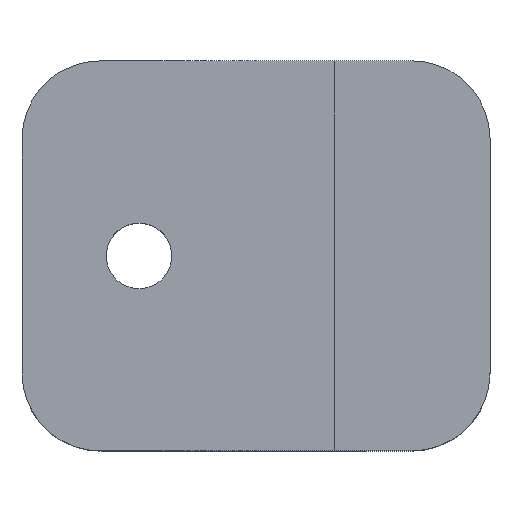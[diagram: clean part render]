
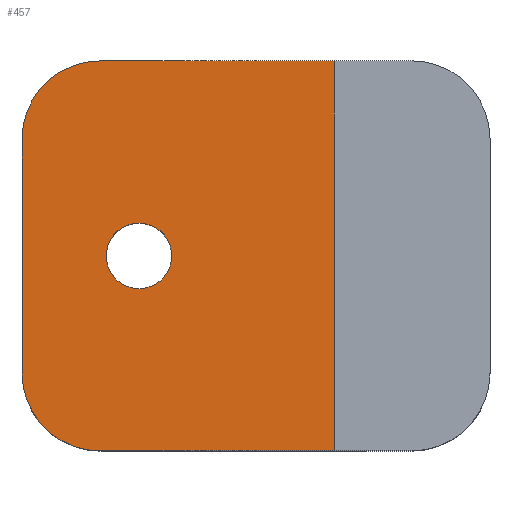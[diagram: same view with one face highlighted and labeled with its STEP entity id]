
A CAD part, top view. The second image highlights one B-rep face of the part: STEP entity #457.
In plain terms, the highlighted planar face has unit normal (0, 0, 1).
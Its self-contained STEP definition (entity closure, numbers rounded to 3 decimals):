
#3 = CARTESIAN_POINT ( 'NONE',  ( -10., -12.5, 3. ) ) ;
#7 = CARTESIAN_POINT ( 'NONE',  ( -15., -7.5, 3. ) ) ;
#13 = VERTEX_POINT ( 'NONE', #466 ) ;
#14 = CARTESIAN_POINT ( 'NONE',  ( -15., -12.5, 3. ) ) ;
#15 = DIRECTION ( 'NONE',  ( 0., 0., 1. ) ) ;
#16 = VERTEX_POINT ( 'NONE', #7 ) ;
#19 = LINE ( 'NONE', #14, #465 ) ;
#28 = CARTESIAN_POINT ( 'NONE',  ( 5., -12.5, 3. ) ) ;
#36 = DIRECTION ( 'NONE',  ( -1., 0., 0. ) ) ;
#38 = EDGE_LOOP ( 'NONE', ( #297 ) ) ;
#40 = VECTOR ( 'NONE', #55, 1000. ) ;
#45 = DIRECTION ( 'NONE',  ( 0., 0., 1. ) ) ;
#55 = DIRECTION ( 'NONE',  ( -1., 0., 0. ) ) ;
#60 = ORIENTED_EDGE ( 'NONE', *, *, #276, .T. ) ;
#64 = AXIS2_PLACEMENT_3D ( 'NONE', #231, #45, #190 ) ;
#67 = LINE ( 'NONE', #361, #293 ) ;
#68 = CARTESIAN_POINT ( 'NONE',  ( -10., -7.5, 3. ) ) ;
#69 = AXIS2_PLACEMENT_3D ( 'NONE', #68, #492, #36 ) ;
#73 = VERTEX_POINT ( 'NONE', #160 ) ;
#76 = EDGE_CURVE ( 'NONE', #279, #279, #366, .T. ) ;
#79 = ORIENTED_EDGE ( 'NONE', *, *, #118, .T. ) ;
#97 = CARTESIAN_POINT ( 'NONE',  ( -5.4, 0., 3. ) ) ;
#118 = EDGE_CURVE ( 'NONE', #13, #73, #214, .T. ) ;
#122 = ORIENTED_EDGE ( 'NONE', *, *, #162, .T. ) ;
#127 = CARTESIAN_POINT ( 'NONE',  ( 5., 12.5, 3. ) ) ;
#132 = ORIENTED_EDGE ( 'NONE', *, *, #445, .T. ) ;
#137 = CARTESIAN_POINT ( 'NONE',  ( 5., -12.5, 3. ) ) ;
#160 = CARTESIAN_POINT ( 'NONE',  ( -15., 7.5, 3. ) ) ;
#162 = EDGE_CURVE ( 'NONE', #185, #477, #450, .T. ) ;
#163 = PLANE ( 'NONE',  #301 ) ;
#185 = VERTEX_POINT ( 'NONE', #28 ) ;
#190 = DIRECTION ( 'NONE',  ( 1., 0., 0. ) ) ;
#197 = CARTESIAN_POINT ( 'NONE',  ( -10., 7.5, 3. ) ) ;
#204 = DIRECTION ( 'NONE',  ( -1., 0., 0. ) ) ;
#205 = EDGE_LOOP ( 'NONE', ( #132, #79, #60, #398, #463, #122 ) ) ;
#210 = DIRECTION ( 'NONE',  ( 0., 1., 0. ) ) ;
#211 = DIRECTION ( 'NONE',  ( 0., -1., 0. ) ) ;
#214 = CIRCLE ( 'NONE', #405, 5. ) ;
#231 = CARTESIAN_POINT ( 'NONE',  ( -7.5, 0., 3. ) ) ;
#242 = CIRCLE ( 'NONE', #69, 5. ) ;
#273 = FACE_BOUND ( 'NONE', #38, .T. ) ;
#276 = EDGE_CURVE ( 'NONE', #73, #16, #67, .T. ) ;
#279 = VERTEX_POINT ( 'NONE', #97 ) ;
#285 = LINE ( 'NONE', #469, #40 ) ;
#289 = EDGE_CURVE ( 'NONE', #16, #313, #242, .T. ) ;
#293 = VECTOR ( 'NONE', #211, 1000. ) ;
#297 = ORIENTED_EDGE ( 'NONE', *, *, #76, .F. ) ;
#301 = AXIS2_PLACEMENT_3D ( 'NONE', #399, #318, #204 ) ;
#313 = VERTEX_POINT ( 'NONE', #3 ) ;
#314 = DIRECTION ( 'NONE',  ( -1., 0., 0. ) ) ;
#318 = DIRECTION ( 'NONE',  ( 0., 0., -1. ) ) ;
#324 = VECTOR ( 'NONE', #210, 1000. ) ;
#344 = DIRECTION ( 'NONE',  ( 1., 0., 0. ) ) ;
#361 = CARTESIAN_POINT ( 'NONE',  ( -15., -12.5, 3. ) ) ;
#366 = CIRCLE ( 'NONE', #64, 2.1 ) ;
#398 = ORIENTED_EDGE ( 'NONE', *, *, #289, .T. ) ;
#399 = CARTESIAN_POINT ( 'NONE',  ( 0., 0., 3. ) ) ;
#405 = AXIS2_PLACEMENT_3D ( 'NONE', #197, #15, #314 ) ;
#416 = EDGE_CURVE ( 'NONE', #313, #185, #19, .T. ) ;
#444 = FACE_OUTER_BOUND ( 'NONE', #205, .T. ) ;
#445 = EDGE_CURVE ( 'NONE', #477, #13, #285, .T. ) ;
#450 = LINE ( 'NONE', #137, #324 ) ;
#457 = ADVANCED_FACE ( 'NONE', ( #273, #444 ), #163, .F. ) ;
#463 = ORIENTED_EDGE ( 'NONE', *, *, #416, .T. ) ;
#465 = VECTOR ( 'NONE', #344, 1000. ) ;
#466 = CARTESIAN_POINT ( 'NONE',  ( -10., 12.5, 3. ) ) ;
#469 = CARTESIAN_POINT ( 'NONE',  ( -15., 12.5, 3. ) ) ;
#477 = VERTEX_POINT ( 'NONE', #127 ) ;
#492 = DIRECTION ( 'NONE',  ( 0., 0., 1. ) ) ;
